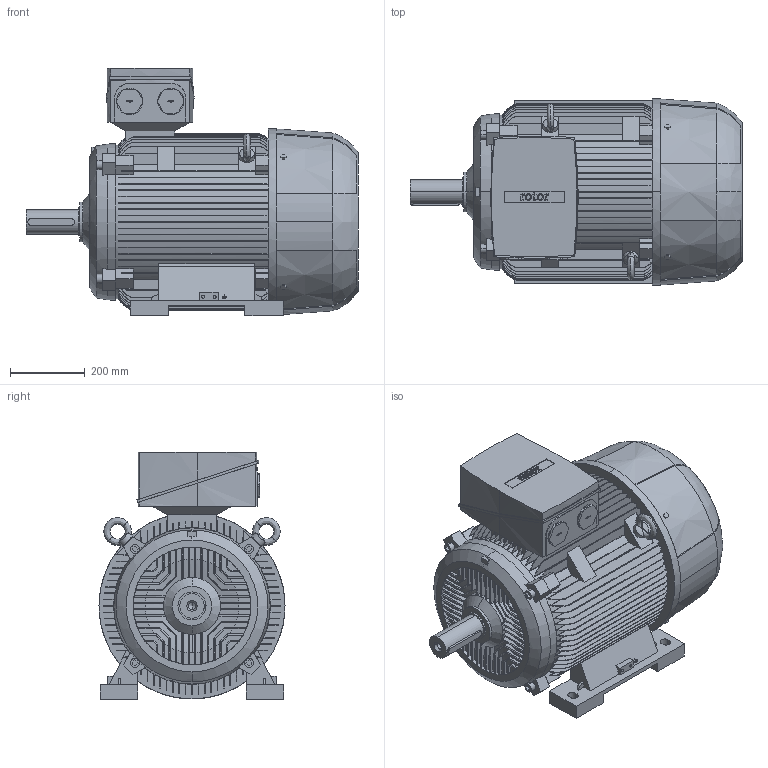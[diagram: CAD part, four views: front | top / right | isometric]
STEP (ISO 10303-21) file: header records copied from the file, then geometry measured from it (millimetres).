
FILE_DESCRIPTION (( 'STEP AP203' ), '1' );
FILE_NAME ('6RN250M06E26 IM1041.STEP', '2017-01-03T14:06:17', ( 'rotor' ), ( 'Hewlett-Packard Company' ), 'SwSTEP 2.0', 'SolidWorks 2015', '' );
FILE_SCHEMA (( 'CONFIG_CONTROL_DESIGN' ));
Length unit declared in the file: millimetre
Products named in the file (1): 6RN250M06E26 IM1041
Bounding box: 887 x 497 x 660 mm (x, y, z)
Volume: 123031147.6 mm3; surface area: 3669057.5 mm2
Topology: 7 solids, 7 shells, 1385 faces, 3918 edges, 2581 vertices
Faces by surface type: plane 832, cylinder 290, bspline 239, cone 24
Entity records: 55796 total; most frequent: CARTESIAN_POINT 22531, ORIENTED_EDGE 7824, DIRECTION 5714, EDGE_CURVE 3912, VERTEX_POINT 2581, VECTOR 2208, LINE 2208, AXIS2_PLACEMENT_3D 1753
